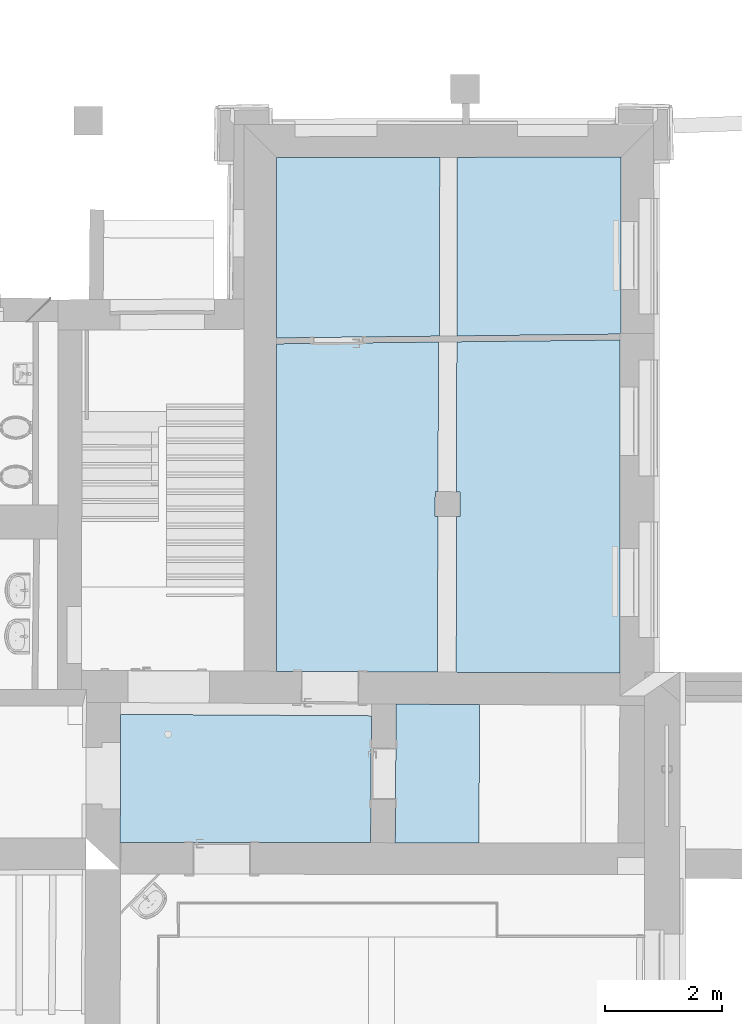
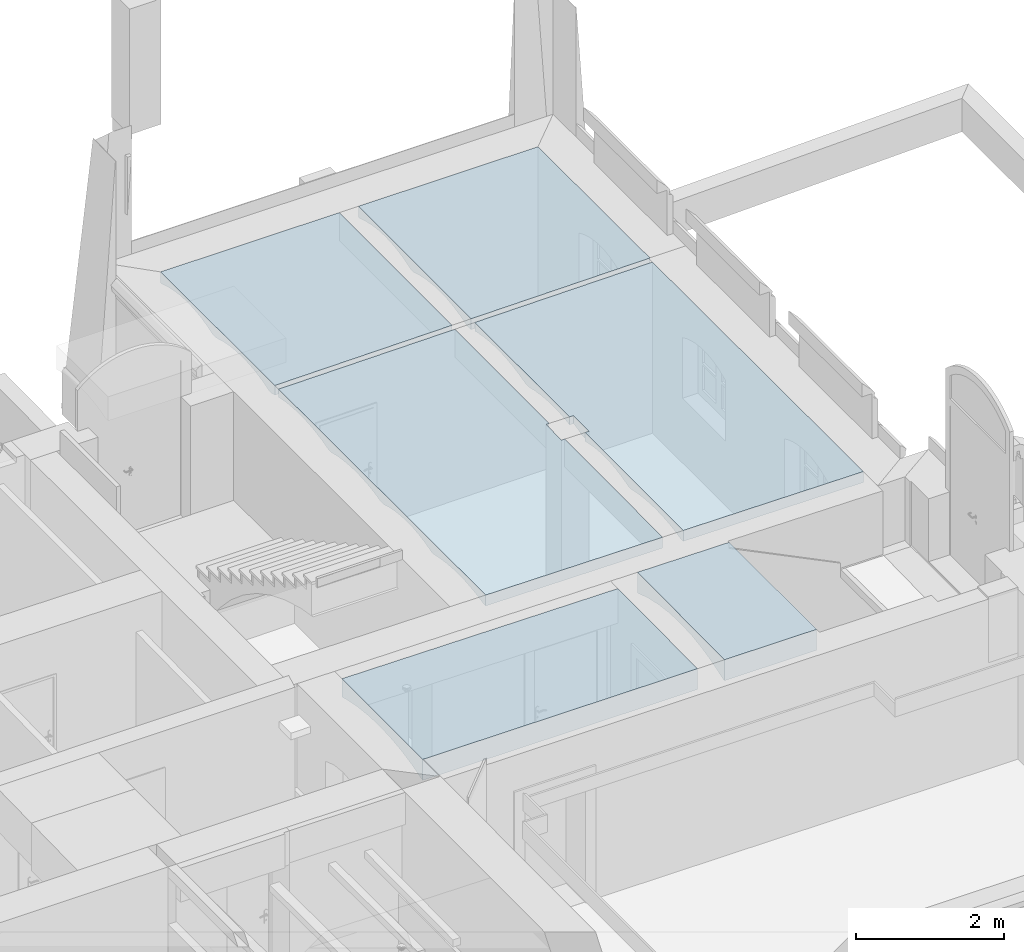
# One storey, part 65 of 196: 6 slabs.
"""IFC2X3 building model written with IfcOpenShell, lengths in metres."""

from ifc_helpers import new_model, entity, si_unit, converted_unit, derived_unit, money_unit, direction, frame, origin_with_axes, place, context, subcontext, project, spatial, polyline, outline, extrude, boolean, faceted_brep, material, layer, layer_set, layer_usage, type_object, element, save


model = new_model("IFC2X3")

# Units and contexts
model_context = context("Model", 3, precision=1e-05, world=origin_with_axes(), true_north=direction((0.0, 1.0)))
body_context = subcontext(model_context, "Body", "Model", "MODEL_VIEW")
ifc_project = project(units=[si_unit("LENGTHUNIT", "METRE"), si_unit("AREAUNIT", "SQUARE_METRE"), si_unit("VOLUMEUNIT", "CUBIC_METRE"), converted_unit("PLANEANGLEUNIT", "DEGREE", entity("IfcPlaneAngleMeasure", 0.0174532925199), si_unit("PLANEANGLEUNIT", "RADIAN"), dimensions=[0, 0, 0, 0, 0, 0, 0]), money_unit("EUR"), converted_unit("TIMEUNIT", "Year", entity("IfcTimeMeasure", 31556926.0), si_unit("TIMEUNIT", "SECOND"), dimensions=[0, 0, 1, 0, 0, 0, 0]), si_unit("MASSUNIT", "GRAM", prefix="KILO"), si_unit("THERMODYNAMICTEMPERATUREUNIT", "DEGREE_CELSIUS"), si_unit("LUMINOUSINTENSITYUNIT", "LUMEN"), si_unit("ENERGYUNIT", "JOULE", prefix="MEGA"), derived_unit("THERMALCONDUCTANCEUNIT", [(si_unit("POWERUNIT", "WATT"), 1), (si_unit("LENGTHUNIT", "METRE"), -1), (si_unit("THERMODYNAMICTEMPERATUREUNIT", "KELVIN"), -1)]), derived_unit("SPECIFICHEATCAPACITYUNIT", [(si_unit("ENERGYUNIT", "JOULE"), 1), (si_unit("MASSUNIT", "GRAM", prefix="KILO"), -1), (si_unit("THERMODYNAMICTEMPERATUREUNIT", "KELVIN"), -1)]), derived_unit("MASSDENSITYUNIT", [(si_unit("MASSUNIT", "GRAM", prefix="KILO"), 1), (si_unit("VOLUMEUNIT", "CUBIC_METRE"), -1)])], contexts=[model_context])

# Site, building, storey
site_placement = place(None, origin_with_axes())
site = spatial("IfcSite", under=ifc_project, at=site_placement, Name="Gelände", CompositionType="ELEMENT")
building_placement = place(site_placement, origin_with_axes())
building = spatial("IfcBuilding", under=site, at=building_placement, Name="Gebäude", CompositionType="ELEMENT")
storey_placement = place(building_placement, frame((0.0, 0.0, -3.0), z_axis=(0.0, 0.0, 1.0), x_axis=(1.0, 0.0, 0.0)))
storey = spatial("IfcBuildingStorey", under=building, at=storey_placement, Name="KELLERGESCHOSS", CompositionType="ELEMENT", Elevation=-3.0)

# Slabs
ifc_material = material(Name="05_ALLGEMEIN - TRAGENDE BAUTEILE")
ifc_layer_1 = layer(ifc_material, 0.18, ventilated="UNKNOWN")
ifc_layer_set_1 = layer_set([ifc_layer_1], Name="05_ALLGEMEIN - TRAGENDE BAUTEILE 0.18")
ifc_layer_usage_1 = layer_usage(ifc_layer_set_1, "AXIS3", "NEGATIVE", 0.18)
slab_type_1 = type_object("IfcSlabType", Name="05_ALLGEMEIN - TRAGENDE BAUTEILE 180", PredefinedType="NOTDEFINED")
slab_1_placement = place(storey_placement, frame((25.2262638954, 19.8202530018, 2.61), z_axis=(0.0, 0.0, 1.0), x_axis=(1.0, 0.0, 0.0)))
element("IfcSlab", 1, at=slab_1_placement, inside=storey, type_object=slab_type_1, material=ifc_layer_usage_1, Name="Belag-011", PredefinedType="NOTDEFINED", context=body_context, shape_type="CSG", body=[
    boolean("DIFFERENCE", boolean("DIFFERENCE", boolean("DIFFERENCE", extrude(outline(polyline([(0.0, 0.0), (2.7499933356, -0.0147346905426), (2.77021457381, 5.62791056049), (0.000826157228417, 5.59675635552), (0.0, 0.0)])), origin_with_axes(), (0.0, 0.0, 1.0), 0.18), faceted_brep([(2.75030086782, 0.0710807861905, 0.0), (1.05524173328e-05, 0.0714867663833, 0.0), (0.000206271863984, 1.39737731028, 0.0), (2.7550523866, 1.39697065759, 0.0), (2.75088770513, 0.234835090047, 0.0338924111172), (3.47247882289e-05, 0.235241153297, 0.0338924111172), (0.000182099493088, 1.23362292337, 0.0338924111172), (5.91476400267e-05, 0.400692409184, 0.0581839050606), (8.37379536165e-05, 0.567278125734, 0.0727919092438), (0.000108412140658, 0.734432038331, 0.077666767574), (0.000133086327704, 0.901585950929, 0.0727919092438), (0.000157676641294, 1.06817166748, 0.0581839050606), (2.75446554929, 1.23321635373, 0.0338924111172), (2.753872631, 1.06776518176, 0.0581839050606), (2.75327564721, 0.901179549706, 0.0727919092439), (2.75267662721, 0.734025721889, 0.077666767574), (2.75207760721, 0.566871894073, 0.0727919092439), (2.75148062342, 0.400286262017, 0.0581839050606)], [[[0, 1, 2, 3]], [[0, 4, 5, 1]], [[6, 2, 1, 5, 7, 8, 9, 10, 11]], [[12, 3, 2, 6]], [[4, 0, 3, 12, 13, 14, 15, 16, 17]], [[4, 17, 7, 5]], [[17, 16, 8, 7]], [[16, 15, 9, 8]], [[15, 14, 10, 9]], [[14, 13, 11, 10]], [[13, 12, 6, 11]]])), faceted_brep([(2.71144810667, 2.83812424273, 0.0), (0.000419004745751, 2.83852442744, 0.0), (0.000616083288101, 4.17362208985, 0.0), (2.76500145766, 4.17321402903, 0.0), (2.75532115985, 1.47197061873, 0.0), (0.000217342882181, 1.47237730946, 0.0), (0.000407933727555, 2.76352442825, 0.0), (2.71033589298, 2.76312440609, 0.0), (2.71388706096, 3.00259009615, 0.0375853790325), (0.000443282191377, 3.00299063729, 0.0375853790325), (0.000591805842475, 4.00915587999, 0.0375853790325), (0.000467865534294, 3.16952913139, 0.0645432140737), (0.000492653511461, 3.3374539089, 0.0807624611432), (0.000517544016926, 3.50607325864, 0.0861763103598), (0.000542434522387, 3.67469260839, 0.0807624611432), (0.000567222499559, 3.84261738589, 0.0645432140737), (2.76441206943, 4.00874790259, 0.0375853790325), (2.75588743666, 1.62998760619, 0.0436392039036), (2.76381525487, 3.84220949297, 0.0645432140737), (2.76321347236, 3.67428480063, 0.0807624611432), (2.76260920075, 3.50566553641, 0.0861763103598), (2.76200492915, 3.33704627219, 0.0807624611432), (2.76140314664, 3.16912157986, 0.0645432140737), (2.76105554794, 3.07212573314, 0.0488423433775), (2.76105554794, 3.07212573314, 0.18), (2.75953241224, 2.64710159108, 0.18), (2.75953241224, 2.64710159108, 0.0320397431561), (2.75938189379, 2.60510009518, 0.0436392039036), (2.75880526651, 2.44419485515, 0.0749960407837), (2.75822170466, 2.28135455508, 0.0938847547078), (2.75763466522, 2.11754385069, 0.100193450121), (2.75704762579, 1.95373314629, 0.0938847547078), (2.75646406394, 1.79089284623, 0.0749960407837), (0.000240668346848, 1.63039437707, 0.0436392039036), (0.000384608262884, 2.60550736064, 0.0436392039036), (0.000264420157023, 1.79129969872, 0.0749960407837), (0.00028845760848, 1.95414008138, 0.0938847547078), (0.000312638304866, 2.11795086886, 0.100193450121), (0.000336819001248, 2.28176165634, 0.0938847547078), (0.000360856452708, 2.444602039, 0.0749960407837), (2.70862652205, 2.64785650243, 0.0318333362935), (2.70862652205, 2.64785650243, 0.18), (2.71492838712, 3.07280977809, 0.18), (2.71492838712, 3.07280977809, 0.0489519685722)], [[[0, 1, 2, 3, 4, 5, 6, 7]], [[1, 0, 8, 9]], [[10, 2, 1, 9, 11, 12, 13, 14, 15]], [[16, 3, 2, 10]], [[17, 4, 3, 16, 18, 19, 20, 21, 22, 23, 24, 25, 26, 27, 28, 29, 30, 31, 32]], [[4, 17, 33, 5]], [[34, 6, 5, 33, 35, 36, 37, 38, 39]], [[27, 26, 40, 7, 6, 34]], [[41, 42, 43, 8, 0, 7, 40]], [[23, 22, 11, 9, 8, 43]], [[22, 21, 12, 11]], [[21, 20, 13, 12]], [[20, 19, 14, 13]], [[19, 18, 15, 14]], [[18, 16, 10, 15]], [[42, 24, 23, 43]], [[41, 25, 24, 42]], [[26, 25, 41, 40]], [[28, 27, 34, 39]], [[29, 28, 39, 38]], [[30, 29, 38, 37]], [[31, 30, 37, 36]], [[32, 31, 36, 35]], [[17, 32, 35, 33]]])), faceted_brep([(0.000826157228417, 5.59675635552, 0.0474868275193), (2.77021457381, 5.62791056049, 0.0393723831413), (2.77021457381, 5.62791056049, 0.0), (0.000826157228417, 5.59675635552, 0.0), (2.77008926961, 5.59294498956, 0.0483615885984), (0.000825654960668, 5.59335377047, 0.0483615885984), (2.7659443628, 4.43632745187, 0.0483615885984), (2.76527023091, 4.24821399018, 0.0), (2.7694044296, 5.40184347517, 0.0830851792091), (2.76871241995, 5.2087413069, 0.103991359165), (2.76801681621, 5.01463622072, 0.110972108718), (2.76732121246, 4.82053113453, 0.103991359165), (2.76662920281, 4.62742896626, 0.0830851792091), (0.000627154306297, 4.24862208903, 0.0), (0.00065492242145, 4.43673564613, 0.0483615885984), (0.000683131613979, 4.62783725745, 0.0830851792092), (0.00071163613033, 4.82093952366, 0.103991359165), (0.000740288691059, 5.0150447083, 0.110972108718), (0.000768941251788, 5.20914989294, 0.103991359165), (0.000797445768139, 5.40225215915, 0.0830851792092)], [[[0, 1, 2, 3]], [[4, 1, 0, 5]], [[6, 7, 2, 1, 4, 8, 9, 10, 11, 12]], [[7, 13, 3, 2]], [[5, 0, 3, 13, 14, 15, 16, 17, 18, 19]], [[8, 4, 5, 19]], [[7, 6, 14, 13]], [[9, 8, 19, 18]], [[10, 9, 18, 17]], [[11, 10, 17, 16]], [[12, 11, 16, 15]], [[6, 12, 15, 14]]])),
])
ifc_layer_usage_2 = layer_usage(ifc_layer_set_1, "AXIS3", "NEGATIVE", 0.18)
slab_2_placement = place(storey_placement, frame((28.297542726, 19.8037678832, 2.61), z_axis=(0.0, 0.0, 1.0), x_axis=(1.0, 0.0, 0.0)))
element("IfcSlab", 2, at=slab_2_placement, inside=storey, type_object=slab_type_1, material=ifc_layer_usage_2, Name="Belag-011", PredefinedType="NOTDEFINED", context=body_context, shape_type="CSG", body=[
    boolean("DIFFERENCE", boolean("DIFFERENCE", boolean("DIFFERENCE", extrude(outline(polyline([(0.0, 0.0), (2.79956066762, -0.014971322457), (2.79764198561, 5.67925454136), (0.0103276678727, 5.64789867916), (0.0, 0.0)])), origin_with_axes(), (0.0, 0.0, 1.0), 0.18), faceted_brep([(2.79799100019, 4.64345609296, 0.0830851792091), (2.79805539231, 4.45235446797, 0.0483615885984), (2.79811877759, 4.26424089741, 0.0), (2.79764198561, 5.67925454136, 0.0), (2.79764198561, 5.67925454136, 0.0302930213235), (2.79766566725, 5.60897267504, 0.0483615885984), (2.79773005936, 5.41787105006, 0.0830851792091), (2.7977951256, 5.22476877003, 0.103991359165), (2.79786052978, 5.03066357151, 0.110972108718), (2.79792593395, 4.83655837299, 0.103991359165), (0.00849171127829, 4.64386786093, 0.0830851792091), (0.00814226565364, 4.45276629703, 0.0483615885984), (0.00779828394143, 4.26465278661, 0.0), (0.0103276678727, 5.64789867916, 0.0), (0.0103276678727, 5.64789867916, 0.0384599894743), (0.0102572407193, 5.60938413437, 0.0483615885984), (0.00990779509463, 5.41828257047, 0.0830851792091), (0.00955469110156, 5.22518035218, 0.103991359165), (0.00919975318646, 5.0310752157, 0.110972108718), (0.00884481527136, 4.83697007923, 0.103991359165)], [[[0, 1, 2, 3, 4, 5, 6, 7, 8, 9]], [[1, 0, 10, 11]], [[12, 2, 1, 11]], [[2, 12, 13, 3]], [[14, 4, 3, 13]], [[5, 4, 14, 15]], [[6, 5, 15, 16]], [[7, 6, 16, 17]], [[8, 7, 17, 18]], [[9, 8, 18, 19]], [[0, 9, 19, 10]], [[15, 14, 13, 12, 11, 10, 19, 18, 17, 16]]])), faceted_brep([(2.79894677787, 1.80691833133, 0.0749960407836), (2.79900099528, 1.64601299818, 0.0436392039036), (2.79905423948, 1.48799591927, 0.0), (2.79861918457, 2.77914313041, 0.0), (2.79867242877, 2.6211260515, 0.0436392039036), (2.79872664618, 2.46022071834, 0.0749960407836), (2.79878151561, 2.29738032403, 0.0938847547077), (2.79883671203, 2.13356952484, 0.100193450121), (2.79889190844, 1.96975872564, 0.0938847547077), (0.00330485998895, 1.80733100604, 0.0749960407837), (0.00301063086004, 1.64642572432, 0.0436392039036), (0.00272168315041, 1.48840869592, 0.0), (0.0641028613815, 2.77954678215, 0.0), (0.00766114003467, 4.18965280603, 0.0), (2.79814404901, 4.18924089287, 0.0), (2.79859391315, 2.85414313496, 0.0), (0.0652150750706, 2.85454661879, 0.0), (0.0623009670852, 2.65803975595, 0.0335563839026), (0.00486201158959, 2.6588915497, 0.0333234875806), (0.00479370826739, 2.62153846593, 0.0436392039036), (0.00449947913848, 2.46063318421, 0.0749960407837), (0.00420171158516, 2.29779284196, 0.0938847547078), (0.00390216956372, 2.13398209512, 0.100193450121), (0.00360262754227, 1.97017134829, 0.0938847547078), (0.00736039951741, 4.02518663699, 0.0375853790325), (0.00486201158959, 2.6588915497, 0.18), (0.00563922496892, 3.08392675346, 0.18), (0.00563922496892, 3.08392675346, 0.0480916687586), (0.00582507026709, 3.18556009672, 0.0645432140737), (0.00613213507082, 3.35348483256, 0.0807624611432), (0.00644046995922, 3.52210414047, 0.0861763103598), (0.00674880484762, 3.69072344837, 0.0807624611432), (0.00705586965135, 3.85864818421, 0.0645432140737), (2.79819946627, 4.02477467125, 0.0375853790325), (2.7985384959, 3.01860935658, 0.0375853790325), (2.79825558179, 3.85823616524, 0.0645432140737), (2.79831216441, 3.69031137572, 0.0807624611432), (2.79836898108, 3.52169201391, 0.0861763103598), (2.79842579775, 3.35307265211, 0.0807624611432), (2.79848238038, 3.18514786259, 0.0645432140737), (0.0676540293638, 3.0190124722, 0.0375853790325), (0.0686028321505, 3.08299303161, 0.18), (0.0623009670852, 2.65803975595, 0.18), (0.0686028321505, 3.08299303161, 0.0479420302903)], [[[0, 1, 2, 3, 4, 5, 6, 7, 8]], [[1, 0, 9, 10]], [[11, 2, 1, 10]], [[12, 3, 2, 11, 13, 14, 15, 16]], [[4, 3, 12, 17, 18, 19]], [[5, 4, 19, 20]], [[6, 5, 20, 21]], [[7, 6, 21, 22]], [[8, 7, 22, 23]], [[0, 8, 23, 9]], [[24, 13, 11, 10, 9, 23, 22, 21, 20, 19, 18, 25, 26, 27, 28, 29, 30, 31, 32]], [[33, 14, 13, 24]], [[34, 15, 14, 33, 35, 36, 37, 38, 39]], [[16, 15, 34, 40]], [[41, 42, 17, 12, 16, 40, 43]], [[42, 25, 18, 17]], [[41, 26, 25, 42]], [[26, 41, 43, 27]], [[34, 39, 28, 27, 43, 40]], [[39, 38, 29, 28]], [[38, 37, 30, 29]], [[37, 36, 31, 30]], [[36, 35, 32, 31]], [[35, 33, 24, 32]]])), faceted_brep([(2.7994153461, 0.416310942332, 0.0581839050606), (2.79947109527, 0.25085967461, 0.0338924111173), (2.79952627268, 0.0871052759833, 0.0), (2.7990795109, 1.41299591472, 0.0), (2.7991346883, 1.24924151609, 0.0338924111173), (2.79919043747, 1.08379024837, 0.0581839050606), (2.7992465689, 0.917204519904, 0.0727919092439), (2.79930289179, 0.750050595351, 0.077666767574), (2.79935921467, 0.582896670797, 0.0727919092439), (0.000762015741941, 0.416724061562, 0.0581839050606), (0.000459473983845, 0.251272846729, 0.0338924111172), (0.000160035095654, 0.0875185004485, 0.0), (0.00258453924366, 1.41340871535, 0.0), (0.00228510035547, 1.24965436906, 0.0338924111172), (0.00198255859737, 1.08420315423, 0.0581839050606), (0.00167794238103, 0.917617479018, 0.0727919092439), (0.00137228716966, 0.750463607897, 0.077666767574), (0.00106663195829, 0.583309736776, 0.0727919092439)], [[[0, 1, 2, 3, 4, 5, 6, 7, 8]], [[1, 0, 9, 10]], [[11, 2, 1, 10]], [[12, 3, 2, 11]], [[4, 3, 12, 13]], [[5, 4, 13, 14]], [[6, 5, 14, 15]], [[7, 6, 15, 16]], [[8, 7, 16, 17]], [[0, 8, 17, 9]], [[13, 12, 11, 10, 9, 17, 16, 15, 14]]])),
])
ifc_layer_usage_3 = layer_usage(ifc_layer_set_1, "AXIS3", "NEGATIVE", 0.18)
slab_3_placement = place(storey_placement, frame((28.3080532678, 25.5516749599, 2.61), z_axis=(0.0, 0.0, 1.0), x_axis=(1.0, 0.0, 0.0)))
element("IfcSlab", 3, at=slab_3_placement, inside=storey, type_object=slab_type_1, material=ifc_layer_usage_3, Name="Belag-011", PredefinedType="NOTDEFINED", context=body_context, shape_type="CSG", body=[
    boolean("DIFFERENCE", boolean("DIFFERENCE", extrude(outline(polyline([(0.0, 0.0), (2.80709767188, 0.0315784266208), (2.80607851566, 3.05620973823), (0.00558475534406, 3.05413892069), (0.0, 0.0)])), origin_with_axes(), (0.0, 0.0, 1.0), 0.18), faceted_brep([(2.80644285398, 1.97493380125, 0.0909862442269), (2.80650102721, 1.80228847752, 0.0529076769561), (2.80655786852, 1.63359596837, 0.0), (2.80609067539, 3.02012233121, 0.0), (2.80614751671, 2.85142982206, 0.0529076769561), (2.80620568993, 2.67878449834, 0.0909862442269), (2.80626475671, 2.50348730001, 0.113948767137), (2.80632427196, 2.32685914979, 0.121622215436), (2.8063837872, 2.15023099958, 0.113948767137), (0.00361209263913, 1.97534753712, 0.0909862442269), (0.00329639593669, 1.80270226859, 0.052907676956), (0.00298792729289, 1.63400981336, 0.0), (0.00552330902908, 3.02053573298, 0.0), (0.00521484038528, 2.85184327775, 0.052907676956), (0.00489914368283, 2.67919800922, 0.0909862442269), (0.00457859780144, 2.50390086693, 0.113948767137), (0.00425561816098, 2.32727277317, 0.121622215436), (0.00393263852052, 2.15064467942, 0.113948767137)], [[[0, 1, 2, 3, 4, 5, 6, 7, 8]], [[1, 0, 9, 10]], [[11, 2, 1, 10]], [[12, 3, 2, 11]], [[4, 3, 12, 13]], [[5, 4, 13, 14]], [[6, 5, 14, 15]], [[7, 6, 15, 16]], [[8, 7, 16, 17]], [[0, 8, 17, 9]], [[13, 12, 11, 10, 9, 17, 16, 15, 14]]])), faceted_brep([(2.80694721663, 0.478096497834, 0.0870415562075), (2.80700743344, 0.299386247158, 0.0506369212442), (2.80706647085, 0.12417622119, 0.0), (2.80658313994, 1.55859596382, 0.0), (2.80664217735, 1.38338593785, 0.0506369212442), (2.80670239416, 1.20467568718, 0.0870415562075), (2.80676340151, 1.0236193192, 0.108978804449), (2.8068248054, 0.841386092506, 0.116306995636), (2.80688620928, 0.659152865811, 0.108978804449), (0.000874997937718, 0.478510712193, 0.0870415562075), (0.000548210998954, 0.299800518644, 0.0506369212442), (0.000227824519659, 0.124590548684, 0.0), (0.00285078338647, 1.55900983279, 0.0), (0.00253039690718, 1.38379986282, 0.0506369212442), (0.00220360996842, 1.20508966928, 0.0870415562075), (0.00187253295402, 1.02403335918, 0.108978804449), (0.00153930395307, 0.841800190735, 0.116306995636), (0.00120607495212, 0.659567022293, 0.108978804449)], [[[0, 1, 2, 3, 4, 5, 6, 7, 8]], [[1, 0, 9, 10]], [[11, 2, 1, 10]], [[12, 3, 2, 11]], [[4, 3, 12, 13]], [[5, 4, 13, 14]], [[6, 5, 14, 15]], [[7, 6, 15, 16]], [[8, 7, 16, 17]], [[0, 8, 17, 9]], [[13, 12, 11, 10, 9, 17, 16, 15, 14]]])),
])
ifc_layer_usage_4 = layer_usage(ifc_layer_set_1, "AXIS3", "NEGATIVE", 0.18)
slab_4_placement = place(storey_placement, frame((25.2271048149, 25.5170158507, 2.61), z_axis=(0.0, 0.0, 1.0), x_axis=(1.0, 0.0, 0.0)))
element("IfcSlab", 4, at=slab_4_placement, inside=storey, type_object=slab_type_1, material=ifc_layer_usage_4, Name="Belag-011", PredefinedType="NOTDEFINED", context=body_context, shape_type="CSG", body=[
    boolean("DIFFERENCE", boolean("DIFFERENCE", boolean("DIFFERENCE", extrude(outline(polyline([(0.0, 0.0), (2.7821403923, 0.0312976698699), (2.79103176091, 3.08857952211), (0.000455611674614, 3.08651603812), (0.0, 0.0)])), origin_with_axes(), (0.0, 0.0, 1.0), 0.18), faceted_brep([(1.25035311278e-05, 0.0847044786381, 0.0), (2.78229451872, 0.0842937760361, 0.0), (2.7821403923, 0.0312976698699, 0.0), (0.0, 0.0, 0.0), (2.7821403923, 0.0312976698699, 0.0136246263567), (0.0, 0.0, 0.0217764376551)], [[[0, 1, 2, 3]], [[4, 1, 0, 5]], [[1, 4, 2]], [[4, 5, 3, 2]], [[5, 0, 3]]])), faceted_brep([(2.78251263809, 0.159293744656, 0.0), (2.35745493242e-05, 0.159704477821, 0.0), (0.000235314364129, 1.59412411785, 0.0), (2.78668430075, 1.59371280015, 0.0), (2.78302219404, 0.334503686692, 0.0506369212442), (4.94379262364e-05, 0.334914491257, 0.0506369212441), (0.000209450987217, 1.41891410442, 0.0506369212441), (7.58179838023e-05, 0.51362472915, 0.0870415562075), (0.000102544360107, 0.694681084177, 0.108978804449), (0.000129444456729, 0.876914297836, 0.116306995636), (0.00015634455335, 1.0591475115, 0.108978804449), (0.000183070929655, 1.24020386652, 0.0870415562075), (2.78617474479, 1.41850285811, 0.0506369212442), (2.78565500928, 1.23979269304, 0.0870415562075), (2.78512845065, 1.0587364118, 0.108978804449), (2.78459846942, 0.876503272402, 0.116306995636), (2.78406848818, 0.694270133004, 0.108978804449), (2.78354192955, 0.513213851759, 0.0870415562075)], [[[0, 1, 2, 3]], [[0, 4, 5, 1]], [[6, 2, 1, 5, 7, 8, 9, 10, 11]], [[12, 3, 2, 6]], [[4, 0, 3, 12, 13, 14, 15, 16, 17]], [[4, 17, 7, 5]], [[17, 16, 8, 7]], [[16, 15, 9, 8]], [[15, 14, 10, 9]], [[14, 13, 11, 10]], [[13, 12, 6, 11]]])), faceted_brep([(2.78690242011, 1.66871276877, 0.0), (0.000246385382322, 1.66912411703, 0.0), (0.000451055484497, 3.0556503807, 0.0), (2.79093479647, 3.05523846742, 0.0), (2.78739302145, 1.83740519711, 0.052907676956), (0.000271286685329, 1.83781661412, 0.052907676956), (0.000426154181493, 2.88695788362, 0.052907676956), (0.000296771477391, 2.0104619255, 0.0909862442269), (0.000322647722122, 2.18575911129, 0.113948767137), (0.000348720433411, 2.36238724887, 0.121622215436), (0.000374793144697, 2.53901538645, 0.113948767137), (0.000400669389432, 2.71431257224, 0.0909862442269), (2.79044419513, 2.88654603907, 0.052907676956), (2.78994209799, 2.71390079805, 0.0909862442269), (2.78943228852, 2.5386036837, 0.113948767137), (2.78891860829, 2.36197561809, 0.121622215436), (2.78840492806, 2.18534755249, 0.113948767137), (2.78789511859, 2.01005043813, 0.0909862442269)], [[[0, 1, 2, 3]], [[0, 4, 5, 1]], [[6, 2, 1, 5, 7, 8, 9, 10, 11]], [[12, 3, 2, 6]], [[4, 0, 3, 12, 13, 14, 15, 16, 17]], [[4, 17, 7, 5]], [[17, 16, 8, 7]], [[16, 15, 9, 8]], [[15, 14, 10, 9]], [[14, 13, 11, 10]], [[13, 12, 6, 11]]])),
])
ifc_layer_2 = layer(ifc_material, 0.3455815, ventilated="UNKNOWN")
ifc_layer_set_2 = layer_set([ifc_layer_2], Name="05_ALLGEMEIN - TRAGENDE BAUTEILE 0.345582")
ifc_layer_usage_5 = layer_usage(ifc_layer_set_2, "AXIS3", "NEGATIVE", 0.3455815)
slab_type_2 = type_object("IfcSlabType", Name="05_ALLGEMEIN - TRAGENDE BAUTEILE 346", PredefinedType="NOTDEFINED")
slab_5_placement = place(storey_placement, frame((22.5609478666, 19.0844111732, 2.4444185), z_axis=(0.0, 0.0, 1.0), x_axis=(1.0, 0.0, 0.0)))
element("IfcSlab", 5, at=slab_5_placement, inside=storey, type_object=slab_type_2, material=ifc_layer_usage_5, Name="Belag-011", PredefinedType="NOTDEFINED", context=body_context, shape_type="CSG", body=[
    boolean("DIFFERENCE", extrude(outline(polyline([(0.0, 0.0), (-0.00647710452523, -2.18962968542), (4.27444279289, -2.19454613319), (4.2886446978, -0.0244820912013), (0.0, 0.0)])), origin_with_axes(), (0.0, 0.0, 1.0), 0.3455815), faceted_brep([(0.0, 0.0, 0.0428201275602), (4.2886446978, -0.0244820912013, 0.0418198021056), (4.2886446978, -0.0244820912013, 0.0), (0.0, 0.0, 0.0), (4.28775990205, -0.159679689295, 0.079548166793), (-0.00038933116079, -0.131616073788, 0.0795481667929), (4.27624118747, -1.91974979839, 0.079548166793), (4.27444279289, -2.19454613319, 0.00286325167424), (4.27444279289, -2.19454613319, 0.0), (4.28585955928, -0.450053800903, 0.136714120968), (4.28393589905, -0.743990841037, 0.171152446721), (4.28200054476, -1.03971474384, 0.182655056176), (4.28006519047, -1.33543864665, 0.171152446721), (4.27814153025, -1.62937568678, 0.136714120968), (2.37289627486, -2.19236229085, 0.0), (-0.00643912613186, -2.17679082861, 0.0), (-0.00559588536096, -1.89172749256, 0.0795481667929), (-0.00473691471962, -1.60134656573, 0.136714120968), (-0.00386740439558, -1.30740262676, 0.171152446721), (-0.00299260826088, -1.01167178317, 0.182655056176), (-0.00211781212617, -0.715940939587, 0.171152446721), (-0.00124830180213, -0.421997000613, 0.136714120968)], [[[0, 1, 2, 3]], [[4, 1, 0, 5]], [[6, 7, 8, 2, 1, 4, 9, 10, 11, 12, 13]], [[14, 15, 3, 2, 8]], [[5, 0, 3, 15, 16, 17, 18, 19, 20, 21]], [[9, 4, 5, 21]], [[7, 6, 16, 15, 14]], [[7, 14, 8]], [[10, 9, 21, 20]], [[11, 10, 20, 19]], [[12, 11, 19, 18]], [[13, 12, 18, 17]], [[6, 13, 17, 16]]])),
])
ifc_layer_usage_6 = layer_usage(ifc_layer_set_2, "AXIS3", "NEGATIVE", 0.3455815)
slab_6_placement = place(storey_placement, frame((27.2709101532, 19.2598836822, 2.4444185), z_axis=(0.0, 0.0, 1.0), x_axis=(1.0, 0.0, 0.0)))
element("IfcSlab", 6, at=slab_6_placement, inside=storey, type_object=slab_type_2, material=ifc_layer_usage_6, Name="Belag-011", PredefinedType="NOTDEFINED", context=body_context, shape_type="CSG", body=[
    boolean("DIFFERENCE", boolean("DIFFERENCE", extrude(outline(polyline([(0.0, 0.0), (-0.0155136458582, -2.37050099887), (1.4190427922, -2.37214851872), (1.42327695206, -0.00762603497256), (0.0, 0.0)])), origin_with_axes(), (0.0, 0.0, 1.0), 0.3455815), faceted_brep([(0.0, 0.0, 0.00136220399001), (1.42327695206, -0.00762603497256, 0.00081157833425), (1.42327695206, -0.00762603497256, 0.0), (0.0, 0.0, 0.0), (1.42277066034, -0.290359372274, 0.0930106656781), (-0.00183922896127, -0.281036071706, 0.0930106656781), (1.41958534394, -2.06916614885, 0.0930106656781), (1.41907459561, -2.35438823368, 0.0), (1.42224700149, -0.582791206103, 0.159990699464), (1.42171467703, -0.880062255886, 0.200397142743), (1.42117800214, -1.17976276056, 0.21390244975), (1.42064132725, -1.47946326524, 0.200397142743), (1.42010900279, -1.77673431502, 0.159990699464), (-0.0153467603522, -2.34500072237, 0.0), (-0.0134801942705, -2.05978751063, 0.0930106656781), (-0.0115664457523, -1.76736477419, 0.159990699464), (-0.00962102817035, -1.47010297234, 0.200397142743), (-0.00765971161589, -1.17041179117, 0.21390244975), (-0.00569839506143, -0.870720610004, 0.200397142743), (-0.00375297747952, -0.573458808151, 0.159990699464)], [[[0, 1, 2, 3]], [[4, 1, 0, 5]], [[6, 7, 2, 1, 4, 8, 9, 10, 11, 12]], [[7, 13, 3, 2]], [[5, 0, 3, 13, 14, 15, 16, 17, 18, 19]], [[8, 4, 5, 19]], [[7, 6, 14, 13]], [[9, 8, 19, 18]], [[10, 9, 18, 17]], [[11, 10, 17, 16]], [[12, 11, 16, 15]], [[6, 12, 15, 14]]])), faceted_brep([(1.4232469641, -0.0243724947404, 0.244080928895), (1.42327695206, -0.00762603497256, 0.244135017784), (1.42327695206, -0.00762603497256, 0.299765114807), (1.4232469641, -0.0243724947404, 0.299711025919), (1.42313606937, -0.024371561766, 0.244135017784), (1.42313606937, -0.024371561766, 0.299765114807)], [[[0, 1, 2, 3]], [[1, 0, 4]], [[2, 1, 4, 5]], [[3, 2, 5]], [[0, 3, 5, 4]]])),
])

save(model, "model.ifc")
